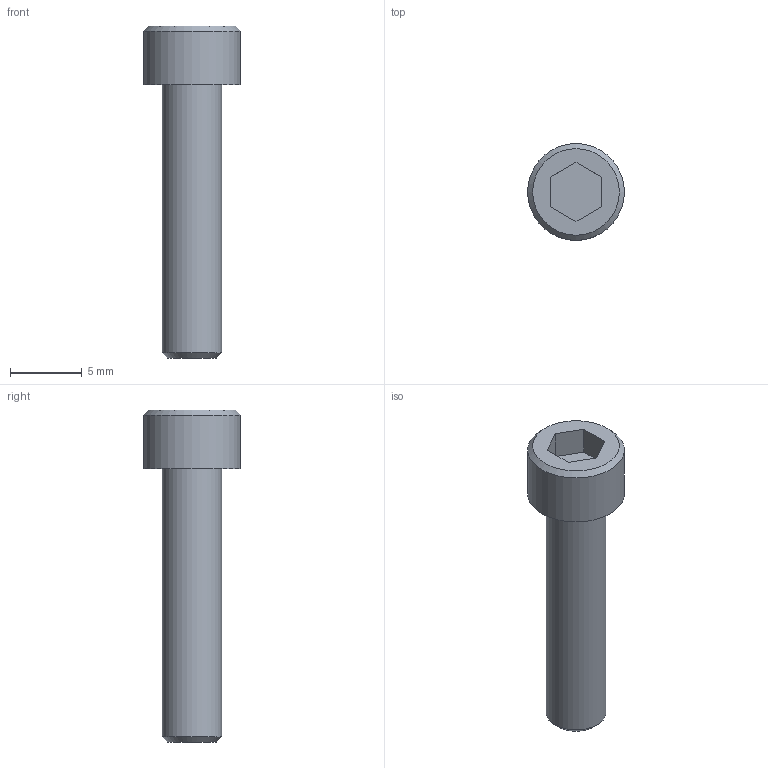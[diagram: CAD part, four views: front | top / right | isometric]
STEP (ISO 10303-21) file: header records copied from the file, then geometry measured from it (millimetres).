
FILE_DESCRIPTION((''),'2;1');
FILE_NAME('C:\Users\Stan\Desktop\import\SHCS 8-32 UNCx0.75.ipt.step','2011-08-18T17:45:30',(''),(''),'Autodesk Inventor 2012','Autodesk Inventor 2012','');
FILE_SCHEMA(('AUTOMOTIVE_DESIGN { 1 0 10303 214 1 1 1 1 }'));
Length unit declared in the file: inch
Products named in the file (1): SHCS 8-32 UNCx0.75
Bounding box: 6.76 x 6.76 x 23.16 mm (x, y, z)
Volume: 383.3 mm3; surface area: 425.1 mm2
Topology: 1 solids, 1 shells, 14 faces, 28 edges, 18 vertices
Faces by surface type: plane 10, cone 2, cylinder 2
Full cylindrical faces by diameter (mm): 4.166 x1, 6.756 x1
Entity records: 391 total; most frequent: DIRECTION 60, CARTESIAN_POINT 57, ORIENTED_EDGE 48, EDGE_CURVE 24, AXIS2_PLACEMENT_3D 21, EDGE_LOOP 20, VERTEX_POINT 18, VECTOR 18
